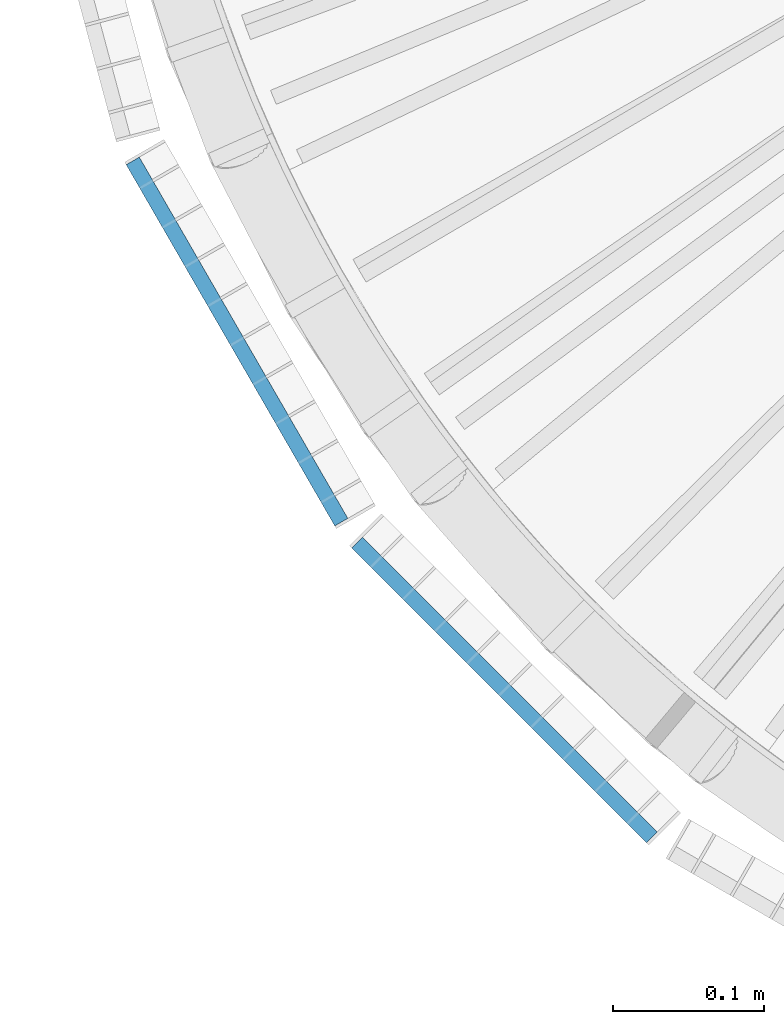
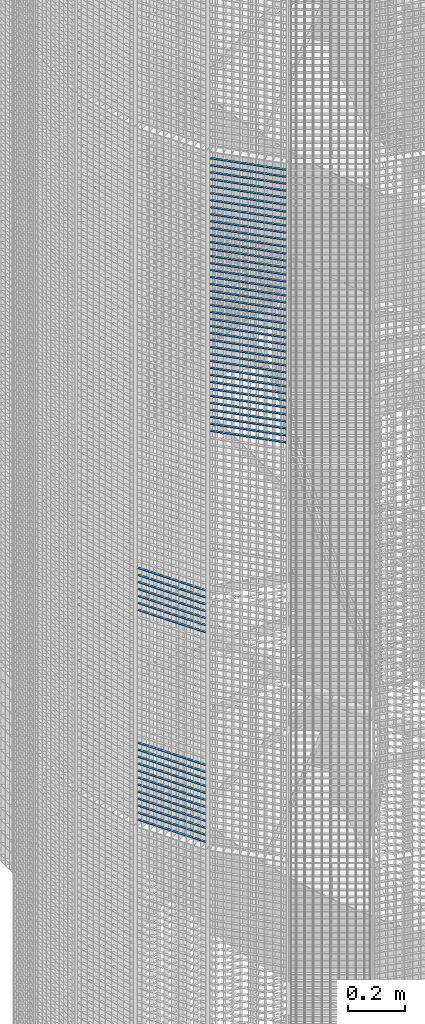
# One storey, part 365 of 1183: 59 beams, 2 elements without a shape of their own.
"""IFC2X3 building model written with IfcOpenShell, lengths in millimetres."""

from ifc_helpers import new_model, si_unit, frame, origin_with_axes, origin_2d_with_axis, place, context, subcontext, project, spatial, rectangle, extrude, material, type_object, element, aggregate, save


model = new_model("IFC2X3")

# Units and contexts
model_context = context("Model", 3, precision=1e-05, world=origin_with_axes())
body_context = subcontext(model_context, "Body", "Model", "MODEL_VIEW")
ifc_project = project(units=[si_unit("LENGTHUNIT", "METRE", prefix="MILLI"), si_unit("AREAUNIT", "SQUARE_METRE"), si_unit("VOLUMEUNIT", "CUBIC_METRE"), si_unit("MASSUNIT", "GRAM", prefix="KILO"), si_unit("TIMEUNIT", "SECOND"), si_unit("PLANEANGLEUNIT", "RADIAN"), si_unit("SOLIDANGLEUNIT", "STERADIAN"), si_unit("THERMODYNAMICTEMPERATUREUNIT", "DEGREE_CELSIUS"), si_unit("LUMINOUSINTENSITYUNIT", "LUMEN")], contexts=[model_context])

# Site, building, storey
site_placement = place(None, origin_with_axes())
site = spatial("IfcSite", under=ifc_project, at=site_placement, Name="Undefined", CompositionType="ELEMENT")
building_placement = place(site_placement, origin_with_axes())
building = spatial("IfcBuilding", under=site, at=building_placement, Name="Undefined", CompositionType="ELEMENT")
storey_placement = place(building_placement, origin_with_axes())
storey = spatial("IfcBuildingStorey", under=building, at=storey_placement, Name="Undefined", CompositionType="ELEMENT", Elevation=0.0)

# Assembly, beams
assembly_1_placement = place(storey_placement, origin_with_axes())
assembly_1 = element("IfcElementAssembly", 1, at=assembly_1_placement, inside=storey, Name="BORDURE", AssemblyPlace="NOTDEFINED", PredefinedType="NOTDEFINED")
ifc_material = material(Name="STEEL/S235JR")
beam_type = type_object("IfcBeamType", Name="PL2*10", PredefinedType="NOTDEFINED")
beam_1_placement = place(assembly_1_placement, frame((20704.6960350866, -676.248044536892, 6930.0), z_axis=(-0.866025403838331, -0.499999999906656, 0.0), x_axis=(-0.49999999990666, 0.866025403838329, 0.0)))
beam_1 = element("IfcBeam", 2, at=beam_1_placement, type_object=beam_type, material=ifc_material, Name="ENTRETOISE", context=body_context, shape_type="SweptSolid", body=[
    extrude(rectangle(XDim=2.0, YDim=10.0, at=origin_2d_with_axis()), frame((275.999999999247, 9.09494701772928e-13, 1.53210777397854e-14), z_axis=(-1.0, 0.0, 0.0), x_axis=(0.0, -1.0, 0.0)), (0.0, 0.0, 1.0), 276.0),
])
beam_2_placement = place(assembly_1_placement, frame((20704.6960350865, -676.24804453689, 6360.0), z_axis=(-0.866025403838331, -0.499999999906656, 0.0), x_axis=(-0.49999999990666, 0.866025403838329, 0.0)))
beam_2 = element("IfcBeam", 3, at=beam_2_placement, type_object=beam_type, material=ifc_material, Name="ENTRETOISE", context=body_context, shape_type="SweptSolid", body=[
    extrude(rectangle(XDim=2.0, YDim=10.0, at=origin_2d_with_axis()), frame((275.999999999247, 9.09494701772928e-13, 1.53210777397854e-14), z_axis=(-1.0, 0.0, 0.0), x_axis=(0.0, -1.0, 0.0)), (0.0, 0.0, 1.0), 276.0),
])
beam_3_placement = place(assembly_1_placement, frame((20704.6960350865, -676.24804453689, 6330.0), z_axis=(-0.866025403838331, -0.499999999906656, 0.0), x_axis=(-0.49999999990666, 0.866025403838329, 0.0)))
beam_3 = element("IfcBeam", 4, at=beam_3_placement, type_object=beam_type, material=ifc_material, Name="ENTRETOISE", context=body_context, shape_type="SweptSolid", body=[
    extrude(rectangle(XDim=2.0, YDim=10.0, at=origin_2d_with_axis()), frame((275.999999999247, 9.09494701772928e-13, 1.53210777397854e-14), z_axis=(-1.0, 0.0, 0.0), x_axis=(0.0, -1.0, 0.0)), (0.0, 0.0, 1.0), 276.0),
])
beam_4_placement = place(assembly_1_placement, frame((20704.6960350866, -676.248044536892, 6960.0), z_axis=(-0.866025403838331, -0.499999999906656, 0.0), x_axis=(-0.49999999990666, 0.866025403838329, 0.0)))
beam_4 = element("IfcBeam", 5, at=beam_4_placement, type_object=beam_type, material=ifc_material, Name="ENTRETOISE", context=body_context, shape_type="SweptSolid", body=[
    extrude(rectangle(XDim=2.0, YDim=10.0, at=origin_2d_with_axis()), frame((275.999999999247, 9.09494701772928e-13, 1.53210777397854e-14), z_axis=(-1.0, 0.0, 0.0), x_axis=(0.0, -1.0, 0.0)), (0.0, 0.0, 1.0), 276.0),
])
beam_5_placement = place(assembly_1_placement, frame((20704.6960350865, -676.24804453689, 6300.0), z_axis=(-0.866025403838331, -0.499999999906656, 0.0), x_axis=(-0.49999999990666, 0.866025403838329, 0.0)))
beam_5 = element("IfcBeam", 6, at=beam_5_placement, type_object=beam_type, material=ifc_material, Name="ENTRETOISE", context=body_context, shape_type="SweptSolid", body=[
    extrude(rectangle(XDim=2.0, YDim=10.0, at=origin_2d_with_axis()), frame((275.999999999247, 9.09494701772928e-13, 1.53210777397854e-14), z_axis=(-1.0, 0.0, 0.0), x_axis=(0.0, -1.0, 0.0)), (0.0, 0.0, 1.0), 276.0),
])
beam_6_placement = place(assembly_1_placement, frame((20704.6960350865, -676.24804453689, 6270.0), z_axis=(-0.866025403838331, -0.499999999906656, 0.0), x_axis=(-0.49999999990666, 0.866025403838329, 0.0)))
beam_6 = element("IfcBeam", 7, at=beam_6_placement, type_object=beam_type, material=ifc_material, Name="ENTRETOISE", context=body_context, shape_type="SweptSolid", body=[
    extrude(rectangle(XDim=2.0, YDim=10.0, at=origin_2d_with_axis()), frame((275.999999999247, 9.09494701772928e-13, 1.53210777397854e-14), z_axis=(-1.0, 0.0, 0.0), x_axis=(0.0, -1.0, 0.0)), (0.0, 0.0, 1.0), 276.0),
])
beam_7_placement = place(assembly_1_placement, frame((20704.6960350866, -676.248044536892, 6990.0), z_axis=(-0.866025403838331, -0.499999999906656, 0.0), x_axis=(-0.49999999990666, 0.866025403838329, 0.0)))
beam_7 = element("IfcBeam", 8, at=beam_7_placement, type_object=beam_type, material=ifc_material, Name="ENTRETOISE", context=body_context, shape_type="SweptSolid", body=[
    extrude(rectangle(XDim=2.0, YDim=10.0, at=origin_2d_with_axis()), frame((275.999999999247, 9.09494701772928e-13, 1.53210777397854e-14), z_axis=(-1.0, 0.0, 0.0), x_axis=(0.0, -1.0, 0.0)), (0.0, 0.0, 1.0), 276.0),
])
beam_8_placement = place(assembly_1_placement, frame((20704.6960350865, -676.24804453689, 6240.0), z_axis=(-0.866025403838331, -0.499999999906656, 0.0), x_axis=(-0.49999999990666, 0.866025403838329, 0.0)))
beam_8 = element("IfcBeam", 9, at=beam_8_placement, type_object=beam_type, material=ifc_material, Name="ENTRETOISE", context=body_context, shape_type="SweptSolid", body=[
    extrude(rectangle(XDim=2.0, YDim=10.0, at=origin_2d_with_axis()), frame((275.999999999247, 9.09494701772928e-13, 1.53210777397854e-14), z_axis=(-1.0, 0.0, 0.0), x_axis=(0.0, -1.0, 0.0)), (0.0, 0.0, 1.0), 276.0),
])
beam_9_placement = place(assembly_1_placement, frame((20704.6960350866, -676.248044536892, 7020.0), z_axis=(-0.866025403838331, -0.499999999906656, 0.0), x_axis=(-0.49999999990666, 0.866025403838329, 0.0)))
beam_9 = element("IfcBeam", 10, at=beam_9_placement, type_object=beam_type, material=ifc_material, Name="ENTRETOISE", context=body_context, shape_type="SweptSolid", body=[
    extrude(rectangle(XDim=2.0, YDim=10.0, at=origin_2d_with_axis()), frame((275.999999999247, 9.09494701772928e-13, 1.53210777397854e-14), z_axis=(-1.0, 0.0, 0.0), x_axis=(0.0, -1.0, 0.0)), (0.0, 0.0, 1.0), 276.0),
])
beam_10_placement = place(assembly_1_placement, frame((20704.6960350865, -676.24804453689, 6210.0), z_axis=(-0.866025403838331, -0.499999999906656, 0.0), x_axis=(-0.49999999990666, 0.866025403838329, 0.0)))
beam_10 = element("IfcBeam", 11, at=beam_10_placement, type_object=beam_type, material=ifc_material, Name="ENTRETOISE", context=body_context, shape_type="SweptSolid", body=[
    extrude(rectangle(XDim=2.0, YDim=10.0, at=origin_2d_with_axis()), frame((275.999999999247, 9.09494701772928e-13, 1.53210777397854e-14), z_axis=(-1.0, 0.0, 0.0), x_axis=(0.0, -1.0, 0.0)), (0.0, 0.0, 1.0), 276.0),
])
beam_11_placement = place(assembly_1_placement, frame((20704.6960350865, -676.24804453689, 6180.0), z_axis=(-0.866025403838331, -0.499999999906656, 0.0), x_axis=(-0.49999999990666, 0.866025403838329, 0.0)))
beam_11 = element("IfcBeam", 12, at=beam_11_placement, type_object=beam_type, material=ifc_material, Name="ENTRETOISE", context=body_context, shape_type="SweptSolid", body=[
    extrude(rectangle(XDim=2.0, YDim=10.0, at=origin_2d_with_axis()), frame((275.999999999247, 9.09494701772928e-13, 1.53210777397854e-14), z_axis=(-1.0, 0.0, 0.0), x_axis=(0.0, -1.0, 0.0)), (0.0, 0.0, 1.0), 276.0),
])
beam_12_placement = place(assembly_1_placement, frame((20704.6960350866, -676.248044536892, 7050.0), z_axis=(-0.866025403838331, -0.499999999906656, 0.0), x_axis=(-0.49999999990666, 0.866025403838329, 0.0)))
beam_12 = element("IfcBeam", 13, at=beam_12_placement, type_object=beam_type, material=ifc_material, Name="ENTRETOISE", context=body_context, shape_type="SweptSolid", body=[
    extrude(rectangle(XDim=2.0, YDim=10.0, at=origin_2d_with_axis()), frame((275.999999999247, 9.09494701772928e-13, 1.53210777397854e-14), z_axis=(-1.0, 0.0, 0.0), x_axis=(0.0, -1.0, 0.0)), (0.0, 0.0, 1.0), 276.0),
])
beam_13_placement = place(assembly_1_placement, frame((20704.6960350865, -676.24804453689, 6150.0), z_axis=(-0.866025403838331, -0.499999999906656, 0.0), x_axis=(-0.49999999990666, 0.866025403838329, 0.0)))
beam_13 = element("IfcBeam", 14, at=beam_13_placement, type_object=beam_type, material=ifc_material, Name="ENTRETOISE", context=body_context, shape_type="SweptSolid", body=[
    extrude(rectangle(XDim=2.0, YDim=10.0, at=origin_2d_with_axis()), frame((275.999999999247, 9.09494701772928e-13, 1.53210777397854e-14), z_axis=(-1.0, 0.0, 0.0), x_axis=(0.0, -1.0, 0.0)), (0.0, 0.0, 1.0), 276.0),
])
beam_14_placement = place(assembly_1_placement, frame((20704.6960350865, -676.24804453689, 6120.0), z_axis=(-0.866025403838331, -0.499999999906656, 0.0), x_axis=(-0.49999999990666, 0.866025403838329, 0.0)))
beam_14 = element("IfcBeam", 15, at=beam_14_placement, type_object=beam_type, material=ifc_material, Name="ENTRETOISE", context=body_context, shape_type="SweptSolid", body=[
    extrude(rectangle(XDim=2.0, YDim=10.0, at=origin_2d_with_axis()), frame((275.999999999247, 9.09494701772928e-13, 1.53210777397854e-14), z_axis=(-1.0, 0.0, 0.0), x_axis=(0.0, -1.0, 0.0)), (0.0, 0.0, 1.0), 276.0),
])
beam_15_placement = place(assembly_1_placement, frame((20704.6960350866, -676.248044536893, 7080.0), z_axis=(-0.866025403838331, -0.499999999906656, 0.0), x_axis=(-0.49999999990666, 0.866025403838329, 0.0)))
beam_15 = element("IfcBeam", 16, at=beam_15_placement, type_object=beam_type, material=ifc_material, Name="ENTRETOISE", context=body_context, shape_type="SweptSolid", body=[
    extrude(rectangle(XDim=2.0, YDim=10.0, at=origin_2d_with_axis()), frame((275.999999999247, 9.09494701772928e-13, 1.53210777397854e-14), z_axis=(-1.0, 0.0, 0.0), x_axis=(0.0, -1.0, 0.0)), (0.0, 0.0, 1.0), 276.0),
])
beam_16_placement = place(assembly_1_placement, frame((20704.6960350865, -676.248044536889, 6090.0), z_axis=(-0.866025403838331, -0.499999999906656, 0.0), x_axis=(-0.49999999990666, 0.866025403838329, 0.0)))
beam_16 = element("IfcBeam", 17, at=beam_16_placement, type_object=beam_type, material=ifc_material, Name="ENTRETOISE", context=body_context, shape_type="SweptSolid", body=[
    extrude(rectangle(XDim=2.0, YDim=10.0, at=origin_2d_with_axis()), frame((275.999999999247, 9.09494701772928e-13, 1.53210777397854e-14), z_axis=(-1.0, 0.0, 0.0), x_axis=(0.0, -1.0, 0.0)), (0.0, 0.0, 1.0), 276.0),
])
beam_17_placement = place(assembly_1_placement, frame((20704.6960350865, -676.248044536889, 6060.0), z_axis=(-0.866025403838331, -0.499999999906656, 0.0), x_axis=(-0.49999999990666, 0.866025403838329, 0.0)))
beam_17 = element("IfcBeam", 18, at=beam_17_placement, type_object=beam_type, material=ifc_material, Name="ENTRETOISE", context=body_context, shape_type="SweptSolid", body=[
    extrude(rectangle(XDim=2.0, YDim=10.0, at=origin_2d_with_axis()), frame((275.999999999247, 9.09494701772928e-13, 1.53210777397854e-14), z_axis=(-1.0, 0.0, 0.0), x_axis=(0.0, -1.0, 0.0)), (0.0, 0.0, 1.0), 276.0),
])
beam_18_placement = place(assembly_1_placement, frame((20704.6960350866, -676.248044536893, 7110.0), z_axis=(-0.866025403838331, -0.499999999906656, 0.0), x_axis=(-0.49999999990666, 0.866025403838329, 0.0)))
beam_18 = element("IfcBeam", 19, at=beam_18_placement, type_object=beam_type, material=ifc_material, Name="ENTRETOISE", context=body_context, shape_type="SweptSolid", body=[
    extrude(rectangle(XDim=2.0, YDim=10.0, at=origin_2d_with_axis()), frame((275.999999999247, 9.09494701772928e-13, 1.53210777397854e-14), z_axis=(-1.0, 0.0, 0.0), x_axis=(0.0, -1.0, 0.0)), (0.0, 0.0, 1.0), 276.0),
])
beam_19_placement = place(assembly_1_placement, frame((20704.6960350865, -676.248044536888, 6030.0), z_axis=(-0.866025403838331, -0.499999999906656, 0.0), x_axis=(-0.49999999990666, 0.866025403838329, 0.0)))
beam_19 = element("IfcBeam", 20, at=beam_19_placement, type_object=beam_type, material=ifc_material, Name="ENTRETOISE", context=body_context, shape_type="SweptSolid", body=[
    extrude(rectangle(XDim=2.0, YDim=10.0, at=origin_2d_with_axis()), frame((275.999999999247, 9.09494701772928e-13, 1.53210777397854e-14), z_axis=(-1.0, 0.0, 0.0), x_axis=(0.0, -1.0, 0.0)), (0.0, 0.0, 1.0), 276.0),
])
aggregate(assembly_1, [beam_1, beam_2, beam_3, beam_4, beam_5, beam_6, beam_7, beam_8, beam_9, beam_10, beam_11, beam_12, beam_13, beam_14, beam_15, beam_16, beam_17, beam_18, beam_19])

assembly_2_placement = place(storey_placement, origin_with_axes())
assembly_2 = element("IfcElementAssembly", 21, at=assembly_2_placement, inside=storey, Name="BORDURE", AssemblyPlace="NOTDEFINED", PredefinedType="NOTDEFINED")
beam_20_placement = place(assembly_2_placement, frame((20910.2286510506, -884.927168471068, 8970.0), z_axis=(-0.70710678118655, -0.707106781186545, 0.0), x_axis=(-0.707106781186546, 0.707106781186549, 0.0)))
beam_20 = element("IfcBeam", 22, at=beam_20_placement, type_object=beam_type, material=ifc_material, Name="ENTRETOISE", context=body_context, shape_type="SweptSolid", body=[
    extrude(rectangle(XDim=2.0, YDim=10.0, at=origin_2d_with_axis()), frame((275.999999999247, 9.09494701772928e-13, 1.53210777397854e-14), z_axis=(-1.0, 0.0, 0.0), x_axis=(0.0, -1.0, 0.0)), (0.0, 0.0, 1.0), 276.0),
])
beam_21_placement = place(assembly_2_placement, frame((20910.2286510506, -884.927168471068, 8940.0), z_axis=(-0.70710678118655, -0.707106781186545, 0.0), x_axis=(-0.707106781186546, 0.707106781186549, 0.0)))
beam_21 = element("IfcBeam", 23, at=beam_21_placement, type_object=beam_type, material=ifc_material, Name="ENTRETOISE", context=body_context, shape_type="SweptSolid", body=[
    extrude(rectangle(XDim=2.0, YDim=10.0, at=origin_2d_with_axis()), frame((275.999999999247, 9.09494701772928e-13, 1.53210777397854e-14), z_axis=(-1.0, 0.0, 0.0), x_axis=(0.0, -1.0, 0.0)), (0.0, 0.0, 1.0), 276.0),
])
beam_22_placement = place(assembly_2_placement, frame((20910.2286510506, -884.927168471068, 8910.0), z_axis=(-0.70710678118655, -0.707106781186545, 0.0), x_axis=(-0.707106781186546, 0.707106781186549, 0.0)))
beam_22 = element("IfcBeam", 24, at=beam_22_placement, type_object=beam_type, material=ifc_material, Name="ENTRETOISE", context=body_context, shape_type="SweptSolid", body=[
    extrude(rectangle(XDim=2.0, YDim=10.0, at=origin_2d_with_axis()), frame((275.999999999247, 9.09494701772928e-13, 1.53210777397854e-14), z_axis=(-1.0, 0.0, 0.0), x_axis=(0.0, -1.0, 0.0)), (0.0, 0.0, 1.0), 276.0),
])
beam_23_placement = place(assembly_2_placement, frame((20910.2286510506, -884.927168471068, 8880.0), z_axis=(-0.70710678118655, -0.707106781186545, 0.0), x_axis=(-0.707106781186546, 0.707106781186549, 0.0)))
beam_23 = element("IfcBeam", 25, at=beam_23_placement, type_object=beam_type, material=ifc_material, Name="ENTRETOISE", context=body_context, shape_type="SweptSolid", body=[
    extrude(rectangle(XDim=2.0, YDim=10.0, at=origin_2d_with_axis()), frame((275.999999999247, 9.09494701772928e-13, 1.53210777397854e-14), z_axis=(-1.0, 0.0, 0.0), x_axis=(0.0, -1.0, 0.0)), (0.0, 0.0, 1.0), 276.0),
])
beam_24_placement = place(assembly_2_placement, frame((20910.2286510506, -884.927168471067, 8850.0), z_axis=(-0.70710678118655, -0.707106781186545, 0.0), x_axis=(-0.707106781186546, 0.707106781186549, 0.0)))
beam_24 = element("IfcBeam", 26, at=beam_24_placement, type_object=beam_type, material=ifc_material, Name="ENTRETOISE", context=body_context, shape_type="SweptSolid", body=[
    extrude(rectangle(XDim=2.0, YDim=10.0, at=origin_2d_with_axis()), frame((275.999999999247, 9.09494701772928e-13, 1.53210777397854e-14), z_axis=(-1.0, 0.0, 0.0), x_axis=(0.0, -1.0, 0.0)), (0.0, 0.0, 1.0), 276.0),
])
beam_25_placement = place(assembly_2_placement, frame((20910.2286510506, -884.927168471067, 8820.0), z_axis=(-0.70710678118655, -0.707106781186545, 0.0), x_axis=(-0.707106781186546, 0.707106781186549, 0.0)))
beam_25 = element("IfcBeam", 27, at=beam_25_placement, type_object=beam_type, material=ifc_material, Name="ENTRETOISE", context=body_context, shape_type="SweptSolid", body=[
    extrude(rectangle(XDim=2.0, YDim=10.0, at=origin_2d_with_axis()), frame((275.999999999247, 9.09494701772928e-13, 1.53210777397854e-14), z_axis=(-1.0, 0.0, 0.0), x_axis=(0.0, -1.0, 0.0)), (0.0, 0.0, 1.0), 276.0),
])
beam_26_placement = place(assembly_2_placement, frame((20910.2286510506, -884.927168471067, 8790.0), z_axis=(-0.70710678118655, -0.707106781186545, 0.0), x_axis=(-0.707106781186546, 0.707106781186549, 0.0)))
beam_26 = element("IfcBeam", 28, at=beam_26_placement, type_object=beam_type, material=ifc_material, Name="ENTRETOISE", context=body_context, shape_type="SweptSolid", body=[
    extrude(rectangle(XDim=2.0, YDim=10.0, at=origin_2d_with_axis()), frame((275.999999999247, 9.09494701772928e-13, 1.53210777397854e-14), z_axis=(-1.0, 0.0, 0.0), x_axis=(0.0, -1.0, 0.0)), (0.0, 0.0, 1.0), 276.0),
])
beam_27_placement = place(assembly_2_placement, frame((20910.2286510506, -884.927168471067, 8760.0), z_axis=(-0.70710678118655, -0.707106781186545, 0.0), x_axis=(-0.707106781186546, 0.707106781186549, 0.0)))
beam_27 = element("IfcBeam", 29, at=beam_27_placement, type_object=beam_type, material=ifc_material, Name="ENTRETOISE", context=body_context, shape_type="SweptSolid", body=[
    extrude(rectangle(XDim=2.0, YDim=10.0, at=origin_2d_with_axis()), frame((275.999999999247, 9.09494701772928e-13, 1.53210777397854e-14), z_axis=(-1.0, 0.0, 0.0), x_axis=(0.0, -1.0, 0.0)), (0.0, 0.0, 1.0), 276.0),
])
beam_28_placement = place(assembly_2_placement, frame((20910.2286510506, -884.927168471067, 8730.0), z_axis=(-0.70710678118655, -0.707106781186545, 0.0), x_axis=(-0.707106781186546, 0.707106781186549, 0.0)))
beam_28 = element("IfcBeam", 30, at=beam_28_placement, type_object=beam_type, material=ifc_material, Name="ENTRETOISE", context=body_context, shape_type="SweptSolid", body=[
    extrude(rectangle(XDim=2.0, YDim=10.0, at=origin_2d_with_axis()), frame((275.999999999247, 9.09494701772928e-13, 1.53210777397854e-14), z_axis=(-1.0, 0.0, 0.0), x_axis=(0.0, -1.0, 0.0)), (0.0, 0.0, 1.0), 276.0),
])
beam_29_placement = place(assembly_2_placement, frame((20910.2286510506, -884.927168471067, 8700.0), z_axis=(-0.70710678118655, -0.707106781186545, 0.0), x_axis=(-0.707106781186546, 0.707106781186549, 0.0)))
beam_29 = element("IfcBeam", 31, at=beam_29_placement, type_object=beam_type, material=ifc_material, Name="ENTRETOISE", context=body_context, shape_type="SweptSolid", body=[
    extrude(rectangle(XDim=2.0, YDim=10.0, at=origin_2d_with_axis()), frame((275.999999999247, 9.09494701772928e-13, 1.53210777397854e-14), z_axis=(-1.0, 0.0, 0.0), x_axis=(0.0, -1.0, 0.0)), (0.0, 0.0, 1.0), 276.0),
])
beam_30_placement = place(assembly_2_placement, frame((20910.2286510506, -884.927168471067, 8670.0), z_axis=(-0.70710678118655, -0.707106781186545, 0.0), x_axis=(-0.707106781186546, 0.707106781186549, 0.0)))
beam_30 = element("IfcBeam", 32, at=beam_30_placement, type_object=beam_type, material=ifc_material, Name="ENTRETOISE", context=body_context, shape_type="SweptSolid", body=[
    extrude(rectangle(XDim=2.0, YDim=10.0, at=origin_2d_with_axis()), frame((275.999999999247, 9.09494701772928e-13, 1.53210777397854e-14), z_axis=(-1.0, 0.0, 0.0), x_axis=(0.0, -1.0, 0.0)), (0.0, 0.0, 1.0), 276.0),
])
beam_31_placement = place(assembly_2_placement, frame((20910.2286510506, -884.927168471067, 8640.0), z_axis=(-0.70710678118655, -0.707106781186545, 0.0), x_axis=(-0.707106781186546, 0.707106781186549, 0.0)))
beam_31 = element("IfcBeam", 33, at=beam_31_placement, type_object=beam_type, material=ifc_material, Name="ENTRETOISE", context=body_context, shape_type="SweptSolid", body=[
    extrude(rectangle(XDim=2.0, YDim=10.0, at=origin_2d_with_axis()), frame((275.999999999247, 9.09494701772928e-13, 1.53210777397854e-14), z_axis=(-1.0, 0.0, 0.0), x_axis=(0.0, -1.0, 0.0)), (0.0, 0.0, 1.0), 276.0),
])
beam_32_placement = place(assembly_2_placement, frame((20910.2286510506, -884.927168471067, 8610.0), z_axis=(-0.70710678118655, -0.707106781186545, 0.0), x_axis=(-0.707106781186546, 0.707106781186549, 0.0)))
beam_32 = element("IfcBeam", 34, at=beam_32_placement, type_object=beam_type, material=ifc_material, Name="ENTRETOISE", context=body_context, shape_type="SweptSolid", body=[
    extrude(rectangle(XDim=2.0, YDim=10.0, at=origin_2d_with_axis()), frame((275.999999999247, 9.09494701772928e-13, 1.53210777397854e-14), z_axis=(-1.0, 0.0, 0.0), x_axis=(0.0, -1.0, 0.0)), (0.0, 0.0, 1.0), 276.0),
])
beam_33_placement = place(assembly_2_placement, frame((20910.2286510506, -884.927168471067, 8580.0), z_axis=(-0.70710678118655, -0.707106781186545, 0.0), x_axis=(-0.707106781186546, 0.707106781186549, 0.0)))
beam_33 = element("IfcBeam", 35, at=beam_33_placement, type_object=beam_type, material=ifc_material, Name="ENTRETOISE", context=body_context, shape_type="SweptSolid", body=[
    extrude(rectangle(XDim=2.0, YDim=10.0, at=origin_2d_with_axis()), frame((275.999999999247, 9.09494701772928e-13, 1.53210777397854e-14), z_axis=(-1.0, 0.0, 0.0), x_axis=(0.0, -1.0, 0.0)), (0.0, 0.0, 1.0), 276.0),
])
beam_34_placement = place(assembly_2_placement, frame((20910.2286510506, -884.927168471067, 8550.0), z_axis=(-0.70710678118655, -0.707106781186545, 0.0), x_axis=(-0.707106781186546, 0.707106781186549, 0.0)))
beam_34 = element("IfcBeam", 36, at=beam_34_placement, type_object=beam_type, material=ifc_material, Name="ENTRETOISE", context=body_context, shape_type="SweptSolid", body=[
    extrude(rectangle(XDim=2.0, YDim=10.0, at=origin_2d_with_axis()), frame((275.999999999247, 9.09494701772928e-13, 1.53210777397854e-14), z_axis=(-1.0, 0.0, 0.0), x_axis=(0.0, -1.0, 0.0)), (0.0, 0.0, 1.0), 276.0),
])
beam_35_placement = place(assembly_2_placement, frame((20910.2286510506, -884.927168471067, 8520.0), z_axis=(-0.70710678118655, -0.707106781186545, 0.0), x_axis=(-0.707106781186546, 0.707106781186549, 0.0)))
beam_35 = element("IfcBeam", 37, at=beam_35_placement, type_object=beam_type, material=ifc_material, Name="ENTRETOISE", context=body_context, shape_type="SweptSolid", body=[
    extrude(rectangle(XDim=2.0, YDim=10.0, at=origin_2d_with_axis()), frame((275.999999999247, 9.09494701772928e-13, 1.53210777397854e-14), z_axis=(-1.0, 0.0, 0.0), x_axis=(0.0, -1.0, 0.0)), (0.0, 0.0, 1.0), 276.0),
])
beam_36_placement = place(assembly_2_placement, frame((20910.2286510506, -884.927168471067, 8490.0), z_axis=(-0.70710678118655, -0.707106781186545, 0.0), x_axis=(-0.707106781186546, 0.707106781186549, 0.0)))
beam_36 = element("IfcBeam", 38, at=beam_36_placement, type_object=beam_type, material=ifc_material, Name="ENTRETOISE", context=body_context, shape_type="SweptSolid", body=[
    extrude(rectangle(XDim=2.0, YDim=10.0, at=origin_2d_with_axis()), frame((275.999999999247, 9.09494701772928e-13, 1.53210777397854e-14), z_axis=(-1.0, 0.0, 0.0), x_axis=(0.0, -1.0, 0.0)), (0.0, 0.0, 1.0), 276.0),
])
beam_37_placement = place(assembly_2_placement, frame((20910.2286510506, -884.927168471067, 8460.0), z_axis=(-0.70710678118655, -0.707106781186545, 0.0), x_axis=(-0.707106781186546, 0.707106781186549, 0.0)))
beam_37 = element("IfcBeam", 39, at=beam_37_placement, type_object=beam_type, material=ifc_material, Name="ENTRETOISE", context=body_context, shape_type="SweptSolid", body=[
    extrude(rectangle(XDim=2.0, YDim=10.0, at=origin_2d_with_axis()), frame((275.999999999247, 9.09494701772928e-13, 1.53210777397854e-14), z_axis=(-1.0, 0.0, 0.0), x_axis=(0.0, -1.0, 0.0)), (0.0, 0.0, 1.0), 276.0),
])
beam_38_placement = place(assembly_2_placement, frame((20910.2286510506, -884.927168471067, 8430.0), z_axis=(-0.70710678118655, -0.707106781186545, 0.0), x_axis=(-0.707106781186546, 0.707106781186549, 0.0)))
beam_38 = element("IfcBeam", 40, at=beam_38_placement, type_object=beam_type, material=ifc_material, Name="ENTRETOISE", context=body_context, shape_type="SweptSolid", body=[
    extrude(rectangle(XDim=2.0, YDim=10.0, at=origin_2d_with_axis()), frame((275.999999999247, 9.09494701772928e-13, 1.53210777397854e-14), z_axis=(-1.0, 0.0, 0.0), x_axis=(0.0, -1.0, 0.0)), (0.0, 0.0, 1.0), 276.0),
])
beam_39_placement = place(assembly_2_placement, frame((20910.2286510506, -884.927168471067, 8400.0), z_axis=(-0.70710678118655, -0.707106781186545, 0.0), x_axis=(-0.707106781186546, 0.707106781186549, 0.0)))
beam_39 = element("IfcBeam", 41, at=beam_39_placement, type_object=beam_type, material=ifc_material, Name="ENTRETOISE", context=body_context, shape_type="SweptSolid", body=[
    extrude(rectangle(XDim=2.0, YDim=10.0, at=origin_2d_with_axis()), frame((275.999999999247, 9.09494701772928e-13, 1.53210777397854e-14), z_axis=(-1.0, 0.0, 0.0), x_axis=(0.0, -1.0, 0.0)), (0.0, 0.0, 1.0), 276.0),
])
beam_40_placement = place(assembly_2_placement, frame((20910.2286510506, -884.927168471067, 8370.0), z_axis=(-0.70710678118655, -0.707106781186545, 0.0), x_axis=(-0.707106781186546, 0.707106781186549, 0.0)))
beam_40 = element("IfcBeam", 42, at=beam_40_placement, type_object=beam_type, material=ifc_material, Name="ENTRETOISE", context=body_context, shape_type="SweptSolid", body=[
    extrude(rectangle(XDim=2.0, YDim=10.0, at=origin_2d_with_axis()), frame((275.999999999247, 9.09494701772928e-13, 1.53210777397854e-14), z_axis=(-1.0, 0.0, 0.0), x_axis=(0.0, -1.0, 0.0)), (0.0, 0.0, 1.0), 276.0),
])
beam_41_placement = place(assembly_2_placement, frame((20910.2286510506, -884.927168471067, 8340.0), z_axis=(-0.70710678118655, -0.707106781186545, 0.0), x_axis=(-0.707106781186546, 0.707106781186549, 0.0)))
beam_41 = element("IfcBeam", 43, at=beam_41_placement, type_object=beam_type, material=ifc_material, Name="ENTRETOISE", context=body_context, shape_type="SweptSolid", body=[
    extrude(rectangle(XDim=2.0, YDim=10.0, at=origin_2d_with_axis()), frame((275.999999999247, 9.09494701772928e-13, 1.53210777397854e-14), z_axis=(-1.0, 0.0, 0.0), x_axis=(0.0, -1.0, 0.0)), (0.0, 0.0, 1.0), 276.0),
])
beam_42_placement = place(assembly_2_placement, frame((20910.2286510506, -884.927168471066, 8310.0), z_axis=(-0.70710678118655, -0.707106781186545, 0.0), x_axis=(-0.707106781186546, 0.707106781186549, 0.0)))
beam_42 = element("IfcBeam", 44, at=beam_42_placement, type_object=beam_type, material=ifc_material, Name="ENTRETOISE", context=body_context, shape_type="SweptSolid", body=[
    extrude(rectangle(XDim=2.0, YDim=10.0, at=origin_2d_with_axis()), frame((275.999999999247, 9.09494701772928e-13, 1.53210777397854e-14), z_axis=(-1.0, 0.0, 0.0), x_axis=(0.0, -1.0, 0.0)), (0.0, 0.0, 1.0), 276.0),
])
beam_43_placement = place(assembly_2_placement, frame((20910.2286510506, -884.927168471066, 8280.0), z_axis=(-0.70710678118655, -0.707106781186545, 0.0), x_axis=(-0.707106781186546, 0.707106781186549, 0.0)))
beam_43 = element("IfcBeam", 45, at=beam_43_placement, type_object=beam_type, material=ifc_material, Name="ENTRETOISE", context=body_context, shape_type="SweptSolid", body=[
    extrude(rectangle(XDim=2.0, YDim=10.0, at=origin_2d_with_axis()), frame((275.999999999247, 9.09494701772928e-13, 1.53210777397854e-14), z_axis=(-1.0, 0.0, 0.0), x_axis=(0.0, -1.0, 0.0)), (0.0, 0.0, 1.0), 276.0),
])
beam_44_placement = place(assembly_2_placement, frame((20910.2286510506, -884.927168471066, 8250.0), z_axis=(-0.70710678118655, -0.707106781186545, 0.0), x_axis=(-0.707106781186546, 0.707106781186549, 0.0)))
beam_44 = element("IfcBeam", 46, at=beam_44_placement, type_object=beam_type, material=ifc_material, Name="ENTRETOISE", context=body_context, shape_type="SweptSolid", body=[
    extrude(rectangle(XDim=2.0, YDim=10.0, at=origin_2d_with_axis()), frame((275.999999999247, 9.09494701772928e-13, 1.53210777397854e-14), z_axis=(-1.0, 0.0, 0.0), x_axis=(0.0, -1.0, 0.0)), (0.0, 0.0, 1.0), 276.0),
])
beam_45_placement = place(assembly_2_placement, frame((20910.2286510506, -884.927168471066, 8220.0), z_axis=(-0.70710678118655, -0.707106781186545, 0.0), x_axis=(-0.707106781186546, 0.707106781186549, 0.0)))
beam_45 = element("IfcBeam", 47, at=beam_45_placement, type_object=beam_type, material=ifc_material, Name="ENTRETOISE", context=body_context, shape_type="SweptSolid", body=[
    extrude(rectangle(XDim=2.0, YDim=10.0, at=origin_2d_with_axis()), frame((275.999999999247, 9.09494701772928e-13, 1.53210777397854e-14), z_axis=(-1.0, 0.0, 0.0), x_axis=(0.0, -1.0, 0.0)), (0.0, 0.0, 1.0), 276.0),
])
beam_46_placement = place(assembly_2_placement, frame((20910.2286510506, -884.927168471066, 8190.0), z_axis=(-0.70710678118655, -0.707106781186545, 0.0), x_axis=(-0.707106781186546, 0.707106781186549, 0.0)))
beam_46 = element("IfcBeam", 48, at=beam_46_placement, type_object=beam_type, material=ifc_material, Name="ENTRETOISE", context=body_context, shape_type="SweptSolid", body=[
    extrude(rectangle(XDim=2.0, YDim=10.0, at=origin_2d_with_axis()), frame((275.999999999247, 9.09494701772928e-13, 1.53210777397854e-14), z_axis=(-1.0, 0.0, 0.0), x_axis=(0.0, -1.0, 0.0)), (0.0, 0.0, 1.0), 276.0),
])
beam_47_placement = place(assembly_2_placement, frame((20910.2286510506, -884.927168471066, 8160.0), z_axis=(-0.70710678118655, -0.707106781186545, 0.0), x_axis=(-0.707106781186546, 0.707106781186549, 0.0)))
beam_47 = element("IfcBeam", 49, at=beam_47_placement, type_object=beam_type, material=ifc_material, Name="ENTRETOISE", context=body_context, shape_type="SweptSolid", body=[
    extrude(rectangle(XDim=2.0, YDim=10.0, at=origin_2d_with_axis()), frame((275.999999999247, 9.09494701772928e-13, 1.53210777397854e-14), z_axis=(-1.0, 0.0, 0.0), x_axis=(0.0, -1.0, 0.0)), (0.0, 0.0, 1.0), 276.0),
])
beam_48_placement = place(assembly_2_placement, frame((20910.2286510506, -884.927168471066, 8130.0), z_axis=(-0.70710678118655, -0.707106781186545, 0.0), x_axis=(-0.707106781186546, 0.707106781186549, 0.0)))
beam_48 = element("IfcBeam", 50, at=beam_48_placement, type_object=beam_type, material=ifc_material, Name="ENTRETOISE", context=body_context, shape_type="SweptSolid", body=[
    extrude(rectangle(XDim=2.0, YDim=10.0, at=origin_2d_with_axis()), frame((275.999999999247, 9.09494701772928e-13, 1.53210777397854e-14), z_axis=(-1.0, 0.0, 0.0), x_axis=(0.0, -1.0, 0.0)), (0.0, 0.0, 1.0), 276.0),
])
beam_49_placement = place(assembly_2_placement, frame((20910.2286510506, -884.927168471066, 8100.0), z_axis=(-0.70710678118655, -0.707106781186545, 0.0), x_axis=(-0.707106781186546, 0.707106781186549, 0.0)))
beam_49 = element("IfcBeam", 51, at=beam_49_placement, type_object=beam_type, material=ifc_material, Name="ENTRETOISE", context=body_context, shape_type="SweptSolid", body=[
    extrude(rectangle(XDim=2.0, YDim=10.0, at=origin_2d_with_axis()), frame((275.999999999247, 9.09494701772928e-13, 1.53210777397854e-14), z_axis=(-1.0, 0.0, 0.0), x_axis=(0.0, -1.0, 0.0)), (0.0, 0.0, 1.0), 276.0),
])
beam_50_placement = place(assembly_2_placement, frame((20910.2286510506, -884.927168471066, 8070.0), z_axis=(-0.70710678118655, -0.707106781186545, 0.0), x_axis=(-0.707106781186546, 0.707106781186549, 0.0)))
beam_50 = element("IfcBeam", 52, at=beam_50_placement, type_object=beam_type, material=ifc_material, Name="ENTRETOISE", context=body_context, shape_type="SweptSolid", body=[
    extrude(rectangle(XDim=2.0, YDim=10.0, at=origin_2d_with_axis()), frame((275.999999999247, 9.09494701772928e-13, 1.53210777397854e-14), z_axis=(-1.0, 0.0, 0.0), x_axis=(0.0, -1.0, 0.0)), (0.0, 0.0, 1.0), 276.0),
])
beam_51_placement = place(assembly_2_placement, frame((20910.2286510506, -884.927168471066, 8040.0), z_axis=(-0.70710678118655, -0.707106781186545, 0.0), x_axis=(-0.707106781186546, 0.707106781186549, 0.0)))
beam_51 = element("IfcBeam", 53, at=beam_51_placement, type_object=beam_type, material=ifc_material, Name="ENTRETOISE", context=body_context, shape_type="SweptSolid", body=[
    extrude(rectangle(XDim=2.0, YDim=10.0, at=origin_2d_with_axis()), frame((275.999999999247, 9.09494701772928e-13, 1.53210777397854e-14), z_axis=(-1.0, 0.0, 0.0), x_axis=(0.0, -1.0, 0.0)), (0.0, 0.0, 1.0), 276.0),
])
beam_52_placement = place(assembly_2_placement, frame((20910.2286510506, -884.927168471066, 8010.0), z_axis=(-0.70710678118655, -0.707106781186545, 0.0), x_axis=(-0.707106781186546, 0.707106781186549, 0.0)))
beam_52 = element("IfcBeam", 54, at=beam_52_placement, type_object=beam_type, material=ifc_material, Name="ENTRETOISE", context=body_context, shape_type="SweptSolid", body=[
    extrude(rectangle(XDim=2.0, YDim=10.0, at=origin_2d_with_axis()), frame((275.999999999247, 9.09494701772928e-13, 1.53210777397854e-14), z_axis=(-1.0, 0.0, 0.0), x_axis=(0.0, -1.0, 0.0)), (0.0, 0.0, 1.0), 276.0),
])
beam_53_placement = place(assembly_2_placement, frame((20910.2286510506, -884.927168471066, 7980.0), z_axis=(-0.70710678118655, -0.707106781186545, 0.0), x_axis=(-0.707106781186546, 0.707106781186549, 0.0)))
beam_53 = element("IfcBeam", 55, at=beam_53_placement, type_object=beam_type, material=ifc_material, Name="ENTRETOISE", context=body_context, shape_type="SweptSolid", body=[
    extrude(rectangle(XDim=2.0, YDim=10.0, at=origin_2d_with_axis()), frame((275.999999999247, 9.09494701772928e-13, 1.53210777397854e-14), z_axis=(-1.0, 0.0, 0.0), x_axis=(0.0, -1.0, 0.0)), (0.0, 0.0, 1.0), 276.0),
])
beam_54_placement = place(assembly_2_placement, frame((20910.2286510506, -884.927168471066, 7950.0), z_axis=(-0.70710678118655, -0.707106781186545, 0.0), x_axis=(-0.707106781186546, 0.707106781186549, 0.0)))
beam_54 = element("IfcBeam", 56, at=beam_54_placement, type_object=beam_type, material=ifc_material, Name="ENTRETOISE", context=body_context, shape_type="SweptSolid", body=[
    extrude(rectangle(XDim=2.0, YDim=10.0, at=origin_2d_with_axis()), frame((275.999999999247, 9.09494701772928e-13, 1.53210777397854e-14), z_axis=(-1.0, 0.0, 0.0), x_axis=(0.0, -1.0, 0.0)), (0.0, 0.0, 1.0), 276.0),
])
beam_55_placement = place(assembly_2_placement, frame((20910.2286510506, -884.927168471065, 7920.0), z_axis=(-0.70710678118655, -0.707106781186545, 0.0), x_axis=(-0.707106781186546, 0.707106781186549, 0.0)))
beam_55 = element("IfcBeam", 57, at=beam_55_placement, type_object=beam_type, material=ifc_material, Name="ENTRETOISE", context=body_context, shape_type="SweptSolid", body=[
    extrude(rectangle(XDim=2.0, YDim=10.0, at=origin_2d_with_axis()), frame((275.999999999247, 9.09494701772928e-13, 1.53210777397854e-14), z_axis=(-1.0, 0.0, 0.0), x_axis=(0.0, -1.0, 0.0)), (0.0, 0.0, 1.0), 276.0),
])
beam_56_placement = place(assembly_2_placement, frame((20910.2286510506, -884.927168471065, 7890.0), z_axis=(-0.70710678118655, -0.707106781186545, 0.0), x_axis=(-0.707106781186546, 0.707106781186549, 0.0)))
beam_56 = element("IfcBeam", 58, at=beam_56_placement, type_object=beam_type, material=ifc_material, Name="ENTRETOISE", context=body_context, shape_type="SweptSolid", body=[
    extrude(rectangle(XDim=2.0, YDim=10.0, at=origin_2d_with_axis()), frame((275.999999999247, 9.09494701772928e-13, 1.53210777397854e-14), z_axis=(-1.0, 0.0, 0.0), x_axis=(0.0, -1.0, 0.0)), (0.0, 0.0, 1.0), 276.0),
])
beam_57_placement = place(assembly_2_placement, frame((20910.2286510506, -884.927168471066, 7860.0), z_axis=(-0.70710678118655, -0.707106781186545, 0.0), x_axis=(-0.707106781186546, 0.707106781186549, 0.0)))
beam_57 = element("IfcBeam", 59, at=beam_57_placement, type_object=beam_type, material=ifc_material, Name="ENTRETOISE", context=body_context, shape_type="SweptSolid", body=[
    extrude(rectangle(XDim=2.0, YDim=10.0, at=origin_2d_with_axis()), frame((275.999999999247, 9.09494701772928e-13, 1.53210777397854e-14), z_axis=(-1.0, 0.0, 0.0), x_axis=(0.0, -1.0, 0.0)), (0.0, 0.0, 1.0), 276.0),
])
beam_58_placement = place(assembly_2_placement, frame((20910.2286510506, -884.927168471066, 7830.0), z_axis=(-0.70710678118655, -0.707106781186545, 0.0), x_axis=(-0.707106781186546, 0.707106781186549, 0.0)))
beam_58 = element("IfcBeam", 60, at=beam_58_placement, type_object=beam_type, material=ifc_material, Name="ENTRETOISE", context=body_context, shape_type="SweptSolid", body=[
    extrude(rectangle(XDim=2.0, YDim=10.0, at=origin_2d_with_axis()), frame((275.999999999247, 9.09494701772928e-13, 1.53210777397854e-14), z_axis=(-1.0, 0.0, 0.0), x_axis=(0.0, -1.0, 0.0)), (0.0, 0.0, 1.0), 276.0),
])
beam_59_placement = place(assembly_2_placement, frame((20910.2286510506, -884.927168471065, 7800.0), z_axis=(-0.70710678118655, -0.707106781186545, 0.0), x_axis=(-0.707106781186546, 0.707106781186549, 0.0)))
beam_59 = element("IfcBeam", 61, at=beam_59_placement, type_object=beam_type, material=ifc_material, Name="ENTRETOISE", context=body_context, shape_type="SweptSolid", body=[
    extrude(rectangle(XDim=2.0, YDim=10.0, at=origin_2d_with_axis()), frame((275.999999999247, 9.09494701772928e-13, 1.53210777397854e-14), z_axis=(-1.0, 0.0, 0.0), x_axis=(0.0, -1.0, 0.0)), (0.0, 0.0, 1.0), 276.0),
])
aggregate(assembly_2, [beam_20, beam_21, beam_22, beam_23, beam_24, beam_25, beam_26, beam_27, beam_28, beam_29, beam_30, beam_31, beam_32, beam_33, beam_34, beam_35, beam_36, beam_37, beam_38, beam_39, beam_40, beam_41, beam_42, beam_43, beam_44, beam_45, beam_46, beam_47, beam_48, beam_49, beam_50, beam_51, beam_52, beam_53, beam_54, beam_55, beam_56, beam_57, beam_58, beam_59])

save(model, "model.ifc")
